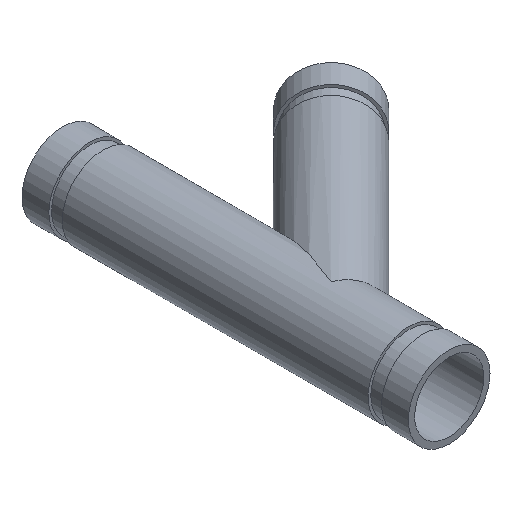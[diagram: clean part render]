
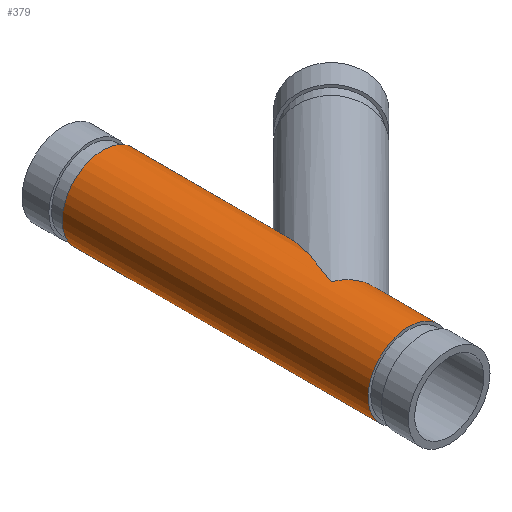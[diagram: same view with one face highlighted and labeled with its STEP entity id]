
A CAD part, isometric view. The second image highlights one B-rep face of the part: STEP entity #379.
In plain terms, the highlighted cylindrical face has radius 24.13 mm (diameter 48.26 mm), a full revolution.
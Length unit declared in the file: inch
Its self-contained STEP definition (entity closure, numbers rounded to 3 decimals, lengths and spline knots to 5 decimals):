
#45=ELLIPSE('',#439,2.48247,0.95);
#46=ELLIPSE('',#440,2.48247,0.95);
#47=ELLIPSE('',#441,1.02827,0.95);
#57=LINE('',#676,#68);
#68=VECTOR('',#544,0.95);
#79=CYLINDRICAL_SURFACE('',#438,0.95);
#90=FACE_BOUND('',#131,.T.);
#105=FACE_OUTER_BOUND('',#130,.T.);
#130=EDGE_LOOP('',(#292,#293,#294,#295));
#131=EDGE_LOOP('',(#296,#297,#298));
#154=CIRCLE('',#426,0.95);
#155=CIRCLE('',#428,0.95);
#181=VERTEX_POINT('',#653);
#182=VERTEX_POINT('',#656);
#189=VERTEX_POINT('',#677);
#190=VERTEX_POINT('',#678);
#191=VERTEX_POINT('',#680);
#218=EDGE_CURVE('',#181,#181,#154,.T.);
#219=EDGE_CURVE('',#182,#182,#155,.T.);
#228=EDGE_CURVE('',#181,#182,#57,.T.);
#229=EDGE_CURVE('',#189,#190,#45,.T.);
#230=EDGE_CURVE('',#190,#191,#46,.T.);
#231=EDGE_CURVE('',#191,#189,#47,.T.);
#292=ORIENTED_EDGE('',*,*,#218,.T.);
#293=ORIENTED_EDGE('',*,*,#228,.T.);
#294=ORIENTED_EDGE('',*,*,#219,.T.);
#295=ORIENTED_EDGE('',*,*,#228,.F.);
#296=ORIENTED_EDGE('',*,*,#229,.T.);
#297=ORIENTED_EDGE('',*,*,#230,.T.);
#298=ORIENTED_EDGE('',*,*,#231,.T.);
#379=ADVANCED_FACE('',(#105,#90),#79,.T.);
#426=AXIS2_PLACEMENT_3D('',#654,#516,#517);
#428=AXIS2_PLACEMENT_3D('',#657,#520,#521);
#438=AXIS2_PLACEMENT_3D('',#675,#542,#543);
#439=AXIS2_PLACEMENT_3D('',#679,#545,#546);
#440=AXIS2_PLACEMENT_3D('',#681,#547,#548);
#441=AXIS2_PLACEMENT_3D('',#682,#549,#550);
#516=DIRECTION('center_axis',(0.,1.,0.));
#517=DIRECTION('ref_axis',(1.,0.,0.));
#520=DIRECTION('center_axis',(0.,-1.,0.));
#521=DIRECTION('ref_axis',(1.,0.,0.));
#542=DIRECTION('center_axis',(0.,-1.,0.));
#543=DIRECTION('ref_axis',(1.,0.,0.));
#544=DIRECTION('',(0.,1.,0.));
#545=DIRECTION('center_axis',(-0.924,0.383,0.));
#546=DIRECTION('ref_axis',(-0.383,-0.924,0.));
#547=DIRECTION('center_axis',(-0.924,0.383,0.));
#548=DIRECTION('ref_axis',(-0.383,-0.924,0.));
#549=DIRECTION('center_axis',(-0.383,-0.924,0.));
#550=DIRECTION('ref_axis',(0.924,-0.383,0.));
#653=CARTESIAN_POINT('',(-0.95,-1.812,0.));
#654=CARTESIAN_POINT('Origin',(0.,-1.812,0.));
#656=CARTESIAN_POINT('',(-0.95,5.312,0.));
#657=CARTESIAN_POINT('Origin',(0.,5.312,0.));
#675=CARTESIAN_POINT('Origin',(0.,6.25,0.));
#676=CARTESIAN_POINT('',(-0.95,6.25,0.));
#677=CARTESIAN_POINT('',(0.,0.,0.95));
#678=CARTESIAN_POINT('',(0.95,2.2935,0.));
#679=CARTESIAN_POINT('Origin',(0.,0.,
0.));
#680=CARTESIAN_POINT('',(0.,0.,-0.95));
#681=CARTESIAN_POINT('Origin',(0.,0.,
0.));
#682=CARTESIAN_POINT('Origin',(0.,0.,
0.));
